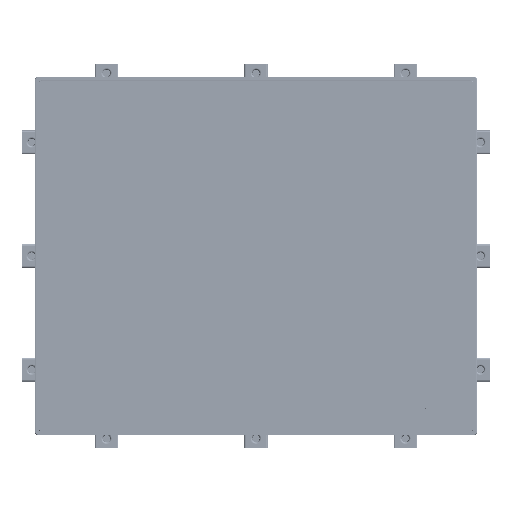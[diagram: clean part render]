
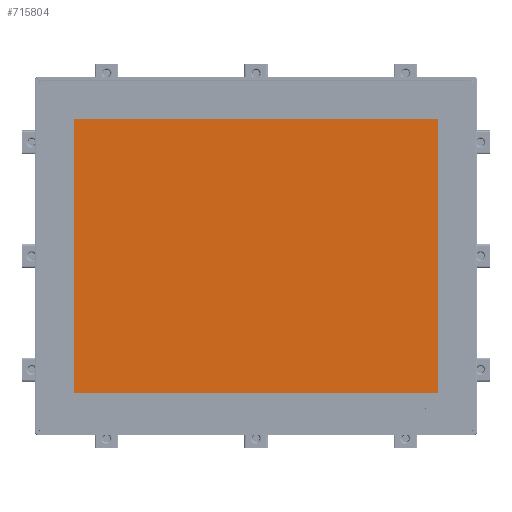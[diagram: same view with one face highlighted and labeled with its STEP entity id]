
A CAD part, top view. The second image highlights one B-rep face of the part: STEP entity #715804.
In plain terms, the highlighted planar face has unit normal (0, 0, 1).
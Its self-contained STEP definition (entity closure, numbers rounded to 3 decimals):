
#715196=DIRECTION('',(0.,1.,0.));
#715197=VECTOR('',#715196,229.03);
#715198=CARTESIAN_POINT('',(-152.6,-114.515,4.5));
#715199=LINE('',#715198,#715197);
#715212=DIRECTION('',(-1.,0.,0.));
#715213=VECTOR('',#715212,305.2);
#715214=CARTESIAN_POINT('',(152.6,-114.515,4.5));
#715215=LINE('',#715214,#715213);
#715216=DIRECTION('',(1.,0.,0.));
#715217=VECTOR('',#715216,305.2);
#715218=CARTESIAN_POINT('',(-152.6,114.515,4.5));
#715219=LINE('',#715218,#715217);
#715264=DIRECTION('',(0.,-1.,0.));
#715265=VECTOR('',#715264,229.03);
#715266=CARTESIAN_POINT('',(152.6,114.515,4.5));
#715267=LINE('',#715266,#715265);
#715288=CARTESIAN_POINT('',(152.6,-114.515,4.5));
#715289=VERTEX_POINT('',#715288);
#715290=CARTESIAN_POINT('',(-152.6,-114.515,4.5));
#715291=VERTEX_POINT('',#715290);
#715298=CARTESIAN_POINT('',(-152.6,114.515,4.5));
#715299=VERTEX_POINT('',#715298);
#715350=CARTESIAN_POINT('',(152.6,114.515,4.5));
#715352=VERTEX_POINT('',#715350);
#715791=CARTESIAN_POINT('',(0.,0.,4.5));
#715792=DIRECTION('',(0.,0.,1.));
#715793=DIRECTION('',(-1.,0.,0.));
#715794=AXIS2_PLACEMENT_3D('',#715791,#715792,#715793);
#715795=PLANE('',#715794);
#715796=ORIENTED_EDGE('',*,*,#715734,.T.);
#715798=ORIENTED_EDGE('',*,*,#715797,.T.);
#715800=ORIENTED_EDGE('',*,*,#715799,.T.);
#715801=ORIENTED_EDGE('',*,*,#715775,.T.);
#715802=EDGE_LOOP('',(#715796,#715798,#715800,#715801));
#715803=FACE_OUTER_BOUND('',#715802,.F.);
#715804=ADVANCED_FACE('',(#715803),#715795,.T.);
#715734=EDGE_CURVE('',#715291,#715299,#715199,.T.);
#715775=EDGE_CURVE('',#715289,#715291,#715215,.T.);
#715797=EDGE_CURVE('',#715299,#715352,#715219,.T.);
#715799=EDGE_CURVE('',#715352,#715289,#715267,.T.);
